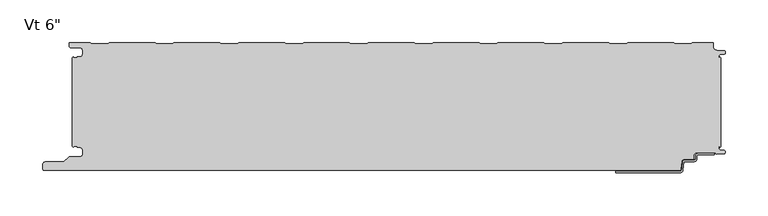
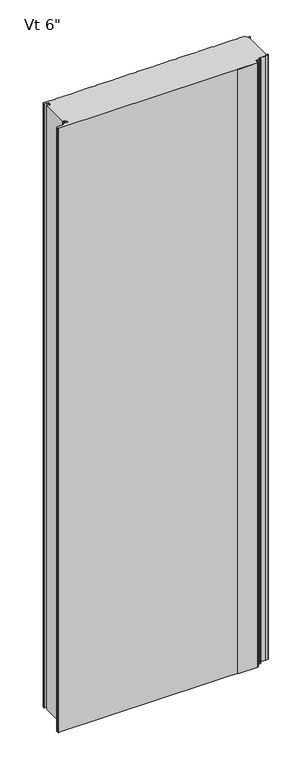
"""IFC4 building model written with IfcOpenShell, lengths in millimetres: plate geometry."""

from ifc_helpers import new_model, si_unit, frame, origin, place, context, project, spatial, polyline, circle_curve, source, transform, mapped, element, save
from ifc_brep_helpers import plane_surface, cylinder_surface, revolved_surface, advanced_brep


def plate_d215558d(model_context):
    return source(origin(), model_context, "Body", "AdvancedBrep", [
        advanced_brep(
        [(354.8464083, -131.3008679, 0.0), (373.5916083, -131.3008679, 0.0), (373.5916083, -132.8248679, 0.0), (354.8464083, -132.8248679, 0.0), (353.3224083, -134.3488679, 0.0), (353.3224083, -137.4476679, 0.0), (349.8680083, -140.9020679, 0.0), (338.655451, -140.9020679, 0.0), (337.8963506, -141.5976552, 0.0), (336.701523, -151.1416507, 0.0), (333.6651216, -153.924, 0.0), (258.0978083, -153.9360323, 0.0), (258.0978083, -152.4, 0.0), (333.6651216, -152.4, 0.0), (335.1833223, -151.0088254, 0.0), (336.3781499, -141.4648299, 0.0), (338.655451, -139.3780679, 0.0), (349.8680083, -139.3780679, 0.0), (351.7984083, -137.4476679, 0.0), (351.7984083, -134.3488679, 0.0), (354.8464083, -131.3008679, 2400.0), (351.7984083, -134.3488679, 2400.0), (351.7984083, -137.4476679, 2400.0), (349.8680083, -139.3780679, 2400.0), (338.655451, -139.3780679, 2400.0), (336.3781499, -141.4648299, 2400.0), (335.1833223, -151.0088254, 2400.0), (333.6651216, -152.4, 2400.0), (258.0978083, -152.4, 2400.0), (258.0978083, -153.9360323, 2400.0), (333.6651216, -153.9360323, 2400.0), (336.701523, -151.1416507, 2400.0), (337.8963506, -141.5976552, 2400.0), (338.655451, -140.9020679, 2400.0), (349.8680083, -140.9020679, 2400.0), (353.3224083, -137.4476679, 2400.0), (353.3224083, -134.3488679, 2400.0), (354.8464083, -132.8248679, 2400.0), (373.5916083, -132.8248679, 2400.0), (373.5916083, -131.3008679, 2400.0)],
        [
            (0, 1),
            (1, 2),
            (2, 3),
            (3, 4, circle_curve(frame((354.8464083, -134.3488679, 0.0), z_axis=(0.0, 0.0, 1.0), x_axis=(0.0, 1.0, 0.0)), 1.524)),
            (4, 5),
            (5, 6, circle_curve(frame((349.8680083, -137.4476679, 0.0), z_axis=(0.0, 0.0, -1.0), x_axis=(0.0, 1.0, 0.0)), 3.4544)),
            (6, 7),
            (7, 8, circle_curve(frame((338.655451, -141.6640679, 0.0), z_axis=(0.0, 0.0, 1.0), x_axis=(0.0, 1.0, 0.0)), 0.762)),
            (8, 9),
            (9, 10, circle_curve(frame((333.6651216, -150.876, 0.0), z_axis=(0.0, 0.0, -1.0), x_axis=(0.0, 1.0, 0.0)), 3.048)),
            (10, 11),
            (11, 12),
            (12, 13),
            (13, 14, circle_curve(frame((333.6651216, -150.876, 0.0), z_axis=(0.0, 0.0, 1.0), x_axis=(0.0, 1.0, 0.0)), 1.524)),
            (14, 15),
            (15, 16, circle_curve(frame((338.655451, -141.6640679, 0.0), z_axis=(0.0, 0.0, -1.0), x_axis=(0.0, 1.0, 0.0)), 2.286)),
            (16, 17),
            (17, 18, circle_curve(frame((349.8680083, -137.4476679, 0.0), z_axis=(0.0, 0.0, 1.0), x_axis=(0.0, 1.0, 0.0)), 1.9304)),
            (18, 19),
            (19, 0, circle_curve(frame((354.8464083, -134.3488679, 0.0), z_axis=(0.0, 0.0, -1.0), x_axis=(0.0, 1.0, 0.0)), 3.048)),
            (20, 21, circle_curve(frame((354.8464083, -134.3488679, 2400.0), z_axis=(0.0, 0.0, 1.0), x_axis=(0.0, 1.0, 0.0)), 3.048)),
            (21, 22),
            (22, 23, circle_curve(frame((349.8680083, -137.4476679, 2400.0), z_axis=(0.0, 0.0, -1.0), x_axis=(0.0, 1.0, 0.0)), 1.9304)),
            (23, 24),
            (24, 25, circle_curve(frame((338.655451, -141.6640679, 2400.0), z_axis=(0.0, 0.0, 1.0), x_axis=(0.0, 1.0, 0.0)), 2.286)),
            (25, 26),
            (26, 27, circle_curve(frame((333.6651216, -150.876, 2400.0), z_axis=(0.0, 0.0, -1.0), x_axis=(0.0, 1.0, 0.0)), 1.524)),
            (27, 28),
            (28, 29),
            (29, 30),
            (30, 31, circle_curve(frame((333.6651216, -150.876, 2400.0), z_axis=(0.0, 0.0, 1.0), x_axis=(0.0, 1.0, 0.0)), 3.048)),
            (31, 32),
            (32, 33, circle_curve(frame((338.655451, -141.6640679, 2400.0), z_axis=(0.0, 0.0, -1.0), x_axis=(0.0, 1.0, 0.0)), 0.762)),
            (33, 34),
            (34, 35, circle_curve(frame((349.8680083, -137.4476679, 2400.0), z_axis=(0.0, 0.0, 1.0), x_axis=(0.0, 1.0, 0.0)), 3.4544)),
            (35, 36),
            (36, 37, circle_curve(frame((354.8464083, -134.3488679, 2400.0), z_axis=(0.0, 0.0, -1.0), x_axis=(0.0, 1.0, 0.0)), 1.524)),
            (37, 38),
            (38, 39),
            (39, 20),
            (2, 38),
            (37, 3),
            (15, 25),
            (24, 16),
            (7, 33),
            (32, 8),
            (5, 35),
            (34, 6),
            (1, 39),
            (36, 4),
            (9, 31),
            (30, 10),
            (13, 27),
            (26, 14),
            (0, 20),
            (12, 28),
            (29, 11),
            (23, 17),
            (18, 22),
            (21, 19),
        ],
        [
            plane_surface(frame((373.5916083, -152.4, 0.0), z_axis=(0.0, 0.0, -1.0), x_axis=(-1.0, 0.0, 0.0))),
            plane_surface(frame((373.5916083, -152.4, 2400.0), z_axis=(0.0, 0.0, 1.0), x_axis=(-1.0, 0.0, 0.0))),
            plane_surface(frame((354.8464083, -132.8248679, 0.0), z_axis=(0.0, -1.0, 0.0), x_axis=(0.0, 0.0, 1.0))),
            cylinder_surface(frame((338.655451, -141.6640679, 0.0), z_axis=(0.0, 0.0, -1.0), x_axis=(0.0, 1.0, 0.0)), 2.286),
            revolved_surface(polyline([(338.655451, -140.9020679, 2400.0), (338.655451, -140.9020679, 0.0)]), (338.655451, -141.6640679, 0.0), (0.0, 0.0, 1.0)),
            cylinder_surface(frame((349.8680083, -137.4476679, 0.0), z_axis=(0.0, 0.0, -1.0), x_axis=(0.0, 1.0, 0.0)), 3.4544),
            plane_surface(frame((373.5916083, -132.8248679, 0.0), z_axis=(1.0, 0.0, 0.0), x_axis=(0.0, 0.0, 1.0))),
            revolved_surface(polyline([(354.8464083, -132.8248679, 2400.0), (354.8464083, -132.8248679, 0.0)]), (354.8464083, -134.3488679, 0.0), (0.0, 0.0, 1.0)),
            cylinder_surface(frame((333.6651216, -150.876, 0.0), z_axis=(0.0, 0.0, -1.0), x_axis=(0.0, 1.0, 0.0)), 3.048),
            revolved_surface(polyline([(333.6651216, -149.352, 2400.0), (333.6651216, -149.352, 0.0)]), (333.6651216, -150.876, 0.0), (0.0, 0.0, 1.0)),
            plane_surface(frame((373.5916083, -131.3008679, 0.0), z_axis=(0.0, 1.0, 0.0), x_axis=(0.0, 0.0, 1.0))),
            plane_surface(frame((336.3781499, -141.4648299, 0.0), z_axis=(-0.9922544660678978, 0.12422187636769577, 0.0), x_axis=(0.0, 0.0, 1.0))),
            plane_surface(frame((333.6651216, -152.4, 0.0), z_axis=(0.0, 1.0, 0.0), x_axis=(0.0, 0.0, 1.0))),
            plane_surface(frame((336.701523, -151.1416507, 0.0), z_axis=(0.9922544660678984, -0.12422187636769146, 0.0), x_axis=(0.0, 0.0, 1.0))),
            plane_surface(frame((353.3224083, -137.4476679, 0.0), z_axis=(1.0, 0.0, 0.0), x_axis=(0.0, 0.0, 1.0))),
            plane_surface(frame((258.0978083, -153.9360323, 0.0), z_axis=(0.0, -1.0, 0.0), x_axis=(0.0, 0.0, 1.0))),
            plane_surface(frame((258.0978083, -152.4, 0.0), z_axis=(-1.0, 0.0, 0.0), x_axis=(0.0, 0.0, 1.0))),
            plane_surface(frame((349.8680083, -139.3780679, 0.0), z_axis=(0.0, 1.0, 0.0), x_axis=(0.0, 0.0, 1.0))),
            plane_surface(frame((351.7984083, -134.3488679, 0.0), z_axis=(-1.0, 0.0, 0.0), x_axis=(0.0, 0.0, 1.0))),
            plane_surface(frame((338.655451, -140.9020679, 0.0), z_axis=(0.0, -1.0, 0.0), x_axis=(0.0, 0.0, 1.0))),
            revolved_surface(polyline([(349.8680083, -135.5172679, 2400.0), (349.8680083, -135.5172679, 0.0)]), (349.8680083, -137.4476679, 0.0), (0.0, 0.0, 1.0)),
            cylinder_surface(frame((354.8464083, -134.3488679, 0.0), z_axis=(0.0, 0.0, -1.0), x_axis=(0.0, 1.0, 0.0)), 3.048),
        ],
        [
            (0, [[1, 2, 3, 4, 5, 6, 7, 8, 9, 10, 11, 12, 13, 14, 15, 16, 17, 18, 19, 20]]),
            (1, [[21, 22, 23, 24, 25, 26, 27, 28, 29, 30, 31, 32, 33, 34, 35, 36, 37, 38, 39, 40]]),
            (2, [[41, -38, 42, -3]]),
            (3, [[43, -25, 44, -16]]),
            (4, [[45, -33, 46, -8]]),
            (5, [[47, -35, 48, -6]]),
            (6, [[49, -39, -41, -2]]),
            (7, [[-42, -37, 50, -4]]),
            (8, [[51, -31, 52, -10]]),
            (9, [[53, -27, 54, -14]]),
            (10, [[55, -40, -49, -1]]),
            (11, [[-54, -26, -43, -15]]),
            (12, [[56, -28, -53, -13]]),
            (13, [[-46, -32, -51, -9]]),
            (14, [[-50, -36, -47, -5]]),
            (15, [[-52, -30, 57, -11]]),
            (16, [[-57, -29, -56, -12]]),
            (17, [[-44, -24, 58, -17]]),
            (18, [[59, -22, 60, -19]]),
            (19, [[-48, -34, -45, -7]]),
            (20, [[-58, -23, -59, -18]]),
            (21, [[-60, -21, -55, -20]]),
        ],
    ),
        advanced_brep(
        [(-379.9683001, -124.0708722, 2400.0), (-378.7671761, -122.9013975, 2400.0), (-375.0087827, -122.9013975, 2400.0), (-375.0087827, -124.2998764, 2400.0), (-372.3096717, -124.2998764, 2400.0), (-368.9596764, -127.6498717, 2400.0), (-368.9596764, -132.0498629, 2400.0), (-372.3096717, -135.3998582, 2400.0), (-384.1205608, -135.3998582, 2400.0), (-385.3226385, -135.8977751, 2400.0), (-390.8247096, -141.3998462, 2400.0), (-412.9198392, -141.3998462, 2400.0), (-415.5765709, -143.6184482, 2400.0), (-416.0125699, -148.6002691, 2400.0), (-413.4521176, -151.394594, 2400.0), (332.515622, -151.3999973, 2400.0), (334.4669057, -149.6149232, 2400.0), (335.221161, -141.1539464, 2400.0), (338.3653654, -138.3906435, 2400.0), (348.4583308, -138.3906435, 2400.0), (349.4097394, -137.4392348, 2400.0), (349.4097394, -134.2955794, 2400.0), (353.4091924, -130.2961265, 2400.0), (374.5895515, -130.2961265, 2400.0), (375.7334028, -132.2769743, 2400.0), (384.706811, -131.921714, 2400.0), (384.7037148, -127.7211364, 2400.0), (380.6977997, -127.4767215, 2400.0), (378.9686884, -125.6819089, 2400.0), (378.9686884, -122.8973623, 2400.0), (379.9686884, -122.8973623, 2400.0), (379.9686884, -124.4848623, 2400.0), (381.0, -123.4535507, 2400.0), (381.0, -18.6184498, 2400.0), (379.9686884, -17.5871382, 2400.0), (379.9686884, -19.0015261, 2400.0), (378.9686884, -19.0015261, 2400.0), (378.9686884, -16.6743434, 2400.0), (380.6513685, -14.9256402, 2400.0), (384.7921924, -14.7059795, 2400.0), (384.7931719, -10.4046415, 2400.0), (376.3016499, -9.9974338, 2400.0), (372.4787013, -6.002598, 2400.0), (372.4787013, -0.9999973, 2400.0), (347.9790963, -0.9999973, 2400.0), (346.5934634, -2.200228, 2400.0), (327.2182971, -2.200228, 2400.0), (325.8326641, -0.9999973, 2400.0), (271.7792487, -0.9999973, 2400.0), (270.3936158, -2.200228, 2400.0), (251.0184495, -2.200228, 2400.0), (249.6328165, -0.9999973, 2400.0), (195.5794011, -0.9999973, 2400.0), (194.1937682, -2.200228, 2400.0), (174.8186019, -2.200228, 2400.0), (173.4329689, -0.9999973, 2400.0), (119.3795535, -0.9999973, 2400.0), (117.9939206, -2.200228, 2400.0), (98.6187543, -2.200228, 2400.0), (97.2331213, -0.9999973, 2400.0), (43.1797059, -0.9999973, 2400.0), (41.794073, -2.200228, 2400.0), (22.4189067, -2.200228, 2400.0), (21.0332737, -0.9999973, 2400.0), (-33.0201417, -0.9999973, 2400.0), (-34.4057746, -2.200228, 2400.0), (-53.7809409, -2.200228, 2400.0), (-55.1665739, -0.9999973, 2400.0), (-109.2199893, -0.9999973, 2400.0), (-110.6056222, -2.200228, 2400.0), (-129.9807885, -2.200228, 2400.0), (-131.3664215, -0.9999973, 2400.0), (-185.4198369, -0.9999973, 2400.0), (-186.8054698, -2.200228, 2400.0), (-206.1806361, -2.200228, 2400.0), (-207.5662691, -0.9999973, 2400.0), (-261.6196845, -0.9999973, 2400.0), (-263.0053174, -2.200228, 2400.0), (-282.3804837, -2.200228, 2400.0), (-283.7661167, -0.9999973, 2400.0), (-337.8195321, -0.9999973, 2400.0), (-339.205165, -2.200228, 2400.0), (-358.5803313, -2.200228, 2400.0), (-359.965974, -0.9999889, 2400.0), (-384.4662506, -0.9999889, 2400.0), (-384.4662506, -5.2315362, 2400.0), (-382.6962564, -7.0015304, 2400.0), (-372.2762778, -7.0015304, 2400.0), (-368.976282, -10.3015263, 2400.0), (-368.976282, -14.7015175, 2400.0), (-372.2762777, -18.0015132, 2400.0), (-374.9684875, -18.0015132, 2400.0), (-374.9684875, -19.0015077, 2400.0), (-378.9686911, -19.0015077, 2400.0), (-379.9686883, -18.0015165, 2400.0), (-381.0, -19.0328281, 2400.0), (-381.0, -123.0391724, 2400.0), (-379.9683001, -124.0708722, 0.0), (-381.0, -123.0391724, 0.0), (-381.0, -19.0328281, 0.0), (-379.9686883, -18.0015165, 0.0), (-378.9686911, -19.0015077, 0.0), (-374.9684875, -19.0015077, 0.0), (-374.9684875, -18.0015132, 0.0), (-372.2762777, -18.0015132, 0.0), (-368.976282, -14.7015175, 0.0), (-368.976282, -10.3015263, 0.0), (-372.2762778, -7.0015304, 0.0), (-382.6962564, -7.0015304, 0.0), (-384.4662506, -5.2315362, 0.0), (-384.4662506, -0.9999889, 0.0), (-359.965974, -0.9999889, 0.0), (-358.5803313, -2.200228, 0.0), (-339.205165, -2.200228, 0.0), (-337.8195321, -0.9999973, 0.0), (-283.7661167, -0.9999973, 0.0), (-282.3804837, -2.200228, 0.0), (-263.0053174, -2.200228, 0.0), (-261.6196845, -0.9999973, 0.0), (-207.5662691, -0.9999973, 0.0), (-206.1806361, -2.200228, 0.0), (-186.8054698, -2.200228, 0.0), (-185.4198369, -0.9999973, 0.0), (-131.3664215, -0.9999973, 0.0), (-129.9807885, -2.200228, 0.0), (-110.6056222, -2.200228, 0.0), (-109.2199893, -0.9999973, 0.0), (-55.1665739, -0.9999973, 0.0), (-53.7809409, -2.200228, 0.0), (-34.4057746, -2.200228, 0.0), (-33.0201417, -0.9999973, 0.0), (21.0332737, -0.9999973, 0.0), (22.4189067, -2.200228, 0.0), (41.794073, -2.200228, 0.0), (43.1797059, -0.9999973, 0.0), (97.2331213, -0.9999973, 0.0), (98.6187543, -2.200228, 0.0), (117.9939206, -2.200228, 0.0), (119.3795535, -0.9999973, 0.0), (173.4329689, -0.9999973, 0.0), (174.8186019, -2.200228, 0.0), (194.1937682, -2.200228, 0.0), (195.5794011, -0.9999973, 0.0), (249.6328165, -0.9999973, 0.0), (251.0184495, -2.200228, 0.0), (270.3936158, -2.200228, 0.0), (271.7792487, -0.9999973, 0.0), (325.8326641, -0.9999973, 0.0), (327.2182971, -2.200228, 0.0), (346.5934634, -2.200228, 0.0), (347.9790963, -0.9999973, 0.0), (372.4787013, -0.9999973, 0.0), (372.4787013, -6.002598, 0.0), (376.3016499, -9.9974338, 0.0), (384.7931719, -10.4046415, 0.0), (384.7921924, -14.7059795, 0.0), (380.6513685, -14.9256402, 0.0), (378.9686884, -16.6743434, 0.0), (378.9686884, -19.0015261, 0.0), (379.9686884, -19.0015261, 0.0), (379.9686884, -17.5871382, 0.0), (381.0, -18.6184498, 0.0), (381.0, -123.4535507, 0.0), (379.9686884, -124.4848623, 0.0), (379.9686884, -122.8973623, 0.0), (378.9686884, -122.8973623, 0.0), (378.9686884, -125.6819089, 0.0), (380.6977997, -127.4767215, 0.0), (384.7037148, -127.7211364, 0.0), (384.706811, -131.921714, 0.0), (375.7334028, -132.2769743, 0.0), (374.5895515, -130.2961265, 0.0), (353.4091924, -130.2961265, 0.0), (349.4097394, -134.2955794, 0.0), (349.4097394, -137.4392348, 0.0), (348.4583308, -138.3906435, 0.0), (338.3653654, -138.3906435, 0.0), (335.221161, -141.1539464, 0.0), (334.4669057, -149.6149232, 0.0), (332.515622, -151.3999973, 0.0), (-413.4521176, -151.3999973, 0.0), (-416.0125699, -148.6002691, 0.0), (-415.5765709, -143.6184482, 0.0), (-412.9198392, -141.3998462, 0.0), (-390.8247096, -141.3998462, 0.0), (-385.3226385, -135.8977751, 0.0), (-384.1205608, -135.3998582, 0.0), (-372.3096717, -135.3998582, 0.0), (-368.9596764, -132.0498629, 0.0), (-368.9596764, -127.6498717, 0.0), (-372.3096717, -124.2998764, 0.0), (-375.0087827, -124.2998764, 0.0), (-375.0087827, -122.9013975, 0.0), (-378.7671761, -122.9013975, 0.0)],
        [
            (0, 1, circle_curve(frame((-378.7686908, -124.1013942, 2400.0), z_axis=(0.0, 0.0, -1.0), x_axis=(-1.0, 0.0, 0.0)), 1.1999976)),
            (1, 2),
            (2, 3),
            (3, 4),
            (4, 5, circle_curve(frame((-372.3096717, -127.6498717, 2400.0), z_axis=(0.0, 0.0, -1.0), x_axis=(-1.0, 0.0, 0.0)), 3.3499953)),
            (5, 6),
            (6, 7, circle_curve(frame((-372.3096717, -132.0498629, 2400.0), z_axis=(0.0, 0.0, -1.0), x_axis=(-1.0, 0.0, 0.0)), 3.3499953)),
            (7, 8),
            (8, 9, circle_curve(frame((-384.1205608, -137.0998528, 2400.0), z_axis=(0.0, 0.0, 1.0), x_axis=(-1.0, 0.0, 0.0)), 1.6999946)),
            (9, 10),
            (10, 11),
            (11, 12, circle_curve(frame((-412.9198392, -144.0998388, 2400.0), z_axis=(0.0, 0.0, 1.0), x_axis=(-1.0, 0.0, 0.0)), 2.6999926)),
            (12, 13),
            (13, 14, circle_curve(frame((-413.4521176, -148.8243547, 2400.0), z_axis=(0.0, 0.0, 1.0), x_axis=(-1.0, 0.0, 0.0)), 2.5702393)),
            (14, 15),
            (15, 16, circle_curve(frame((332.515622, -149.4409756, 2400.0), z_axis=(0.0, 0.0, 1.0), x_axis=(-1.0, 0.0, 0.0)), 1.9590216)),
            (16, 17),
            (17, 18, circle_curve(frame((338.2396267, -141.4180294, 2400.0), z_axis=(0.0, 0.0, -1.0), x_axis=(-1.0, 0.0, 0.0)), 3.0299959)),
            (18, 19),
            (19, 20, circle_curve(frame((348.4583308, -137.4392348, 2400.0), z_axis=(0.0, 0.0, 1.0), x_axis=(-1.0, 0.0, 0.0)), 0.9514087)),
            (20, 21),
            (21, 22, circle_curve(frame((353.4091924, -134.2955794, 2400.0), z_axis=(0.0, 0.0, -1.0), x_axis=(-1.0, 0.0, 0.0)), 3.9994529)),
            (22, 23),
            (23, 24),
            (24, 25),
            (25, 26, circle_curve(frame((384.6236622, -129.8214853, 2400.0), z_axis=(0.0, 0.0, 1.0), x_axis=(-1.0, 0.0, 0.0)), 2.1018739)),
            (26, 27),
            (27, 28, circle_curve(frame((380.8099653, -125.6383479, 2400.0), z_axis=(0.0, 0.0, -1.0), x_axis=(-1.0, 0.0, 0.0)), 1.8417922)),
            (28, 29),
            (29, 30),
            (30, 31),
            (31, 32),
            (32, 33),
            (33, 34),
            (34, 35),
            (35, 36),
            (36, 37),
            (37, 38, circle_curve(frame((380.7186869, -16.6743434, 2400.0), z_axis=(0.0, 0.0, -1.0), x_axis=(1.0, 0.0, 0.0)), 1.7499985)),
            (38, 39),
            (39, 40, circle_curve(frame((384.6781032, -12.5552844, 2400.0), z_axis=(0.0, 0.0, 1.0), x_axis=(1.0, 0.0, 0.0)), 2.153719)),
            (40, 41),
            (41, 42, circle_curve(frame((376.4939817, -5.9867311, 2400.0), z_axis=(0.0, 0.0, -1.0), x_axis=(1.0, 0.0, 0.0)), 4.0153117)),
            (42, 43),
            (43, 44),
            (44, 45),
            (45, 46),
            (46, 47),
            (47, 48),
            (48, 49),
            (49, 50),
            (50, 51),
            (51, 52),
            (52, 53),
            (53, 54),
            (54, 55),
            (55, 56),
            (56, 57),
            (57, 58),
            (58, 59),
            (59, 60),
            (60, 61),
            (61, 62),
            (62, 63),
            (63, 64),
            (64, 65),
            (65, 66),
            (66, 67),
            (67, 68),
            (68, 69),
            (69, 70),
            (70, 71),
            (71, 72),
            (72, 73),
            (73, 74),
            (74, 75),
            (75, 76),
            (76, 77),
            (77, 78),
            (78, 79),
            (79, 80),
            (80, 81),
            (81, 82),
            (82, 83),
            (83, 84),
            (84, 85),
            (85, 86, circle_curve(frame((-382.6962564, -5.2315362, 2400.0), z_axis=(0.0, 0.0, 1.0), x_axis=(1.0, 0.0, 0.0)), 1.7699942)),
            (86, 87),
            (87, 88, circle_curve(frame((-372.2762778, -10.3015263, 2400.0), z_axis=(0.0, 0.0, -1.0), x_axis=(1.0, 0.0, 0.0)), 3.2999959)),
            (88, 89),
            (89, 90, circle_curve(frame((-372.2762777, -14.7015175, 2400.0), z_axis=(0.0, 0.0, -1.0), x_axis=(1.0, 0.0, 0.0)), 3.2999957)),
            (90, 91),
            (91, 92),
            (92, 93),
            (93, 94, circle_curve(frame((-378.9686911, -18.0015105, 2400.0), z_axis=(0.0, 0.0, -1.0), x_axis=(1.0, 0.0, 0.0)), 0.9999972)),
            (94, 95),
            (95, 96),
            (96, 0),
            (97, 98),
            (98, 99),
            (99, 100),
            (100, 101, circle_curve(frame((-378.9686911, -18.0015105, 0.0), z_axis=(0.0, 0.0, 1.0), x_axis=(1.0, 0.0, 0.0)), 0.9999972)),
            (101, 102),
            (102, 103),
            (103, 104),
            (104, 105, circle_curve(frame((-372.2762777, -14.7015175, 0.0), z_axis=(0.0, 0.0, 1.0), x_axis=(1.0, 0.0, 0.0)), 3.2999957)),
            (105, 106),
            (106, 107, circle_curve(frame((-372.2762778, -10.3015263, 0.0), z_axis=(0.0, 0.0, 1.0), x_axis=(1.0, 0.0, 0.0)), 3.2999959)),
            (107, 108),
            (108, 109, circle_curve(frame((-382.6962564, -5.2315362, 0.0), z_axis=(0.0, 0.0, -1.0), x_axis=(1.0, 0.0, 0.0)), 1.7699942)),
            (109, 110),
            (110, 111),
            (111, 112),
            (112, 113),
            (113, 114),
            (114, 115),
            (115, 116),
            (116, 117),
            (117, 118),
            (118, 119),
            (119, 120),
            (120, 121),
            (121, 122),
            (122, 123),
            (123, 124),
            (124, 125),
            (125, 126),
            (126, 127),
            (127, 128),
            (128, 129),
            (129, 130),
            (130, 131),
            (131, 132),
            (132, 133),
            (133, 134),
            (134, 135),
            (135, 136),
            (136, 137),
            (137, 138),
            (138, 139),
            (139, 140),
            (140, 141),
            (141, 142),
            (142, 143),
            (143, 144),
            (144, 145),
            (145, 146),
            (146, 147),
            (147, 148),
            (148, 149),
            (149, 150),
            (150, 151),
            (151, 152),
            (152, 153, circle_curve(frame((376.4939817, -5.9867311, 0.0), z_axis=(0.0, 0.0, 1.0), x_axis=(1.0, 0.0, 0.0)), 4.0153117)),
            (153, 154),
            (154, 155, circle_curve(frame((384.6781032, -12.5552844, 0.0), z_axis=(0.0, 0.0, -1.0), x_axis=(1.0, 0.0, 0.0)), 2.153719)),
            (155, 156),
            (156, 157, circle_curve(frame((380.7186869, -16.6743434, 0.0), z_axis=(0.0, 0.0, 1.0), x_axis=(1.0, 0.0, 0.0)), 1.7499985)),
            (157, 158),
            (158, 159),
            (159, 160),
            (160, 161),
            (161, 162),
            (162, 163),
            (163, 164),
            (164, 165),
            (165, 166),
            (166, 167, circle_curve(frame((380.8099653, -125.6383479, 0.0), z_axis=(0.0, 0.0, 1.0), x_axis=(-1.0, 0.0, 0.0)), 1.8417922)),
            (167, 168),
            (168, 169, circle_curve(frame((384.6236622, -129.8214853, 0.0), z_axis=(0.0, 0.0, -1.0), x_axis=(-1.0, 0.0, 0.0)), 2.1018739)),
            (169, 170),
            (170, 171),
            (171, 172),
            (172, 173, circle_curve(frame((353.4091924, -134.2955794, 0.0), z_axis=(0.0, 0.0, 1.0), x_axis=(-1.0, 0.0, 0.0)), 3.9994529)),
            (173, 174),
            (174, 175, circle_curve(frame((348.4583308, -137.4392348, 0.0), z_axis=(0.0, 0.0, -1.0), x_axis=(-1.0, 0.0, 0.0)), 0.9514087)),
            (175, 176),
            (176, 177, circle_curve(frame((338.2396267, -141.4180294, 0.0), z_axis=(0.0, 0.0, 1.0), x_axis=(-1.0, 0.0, 0.0)), 3.0299959)),
            (177, 178),
            (178, 179, circle_curve(frame((332.515622, -149.4409756, 0.0), z_axis=(0.0, 0.0, -1.0), x_axis=(-1.0, 0.0, 0.0)), 1.9590216)),
            (179, 180),
            (180, 181, circle_curve(frame((-413.4521176, -148.8243547, 0.0), z_axis=(0.0, 0.0, -1.0), x_axis=(-1.0, 0.0, 0.0)), 2.5702393)),
            (181, 182),
            (182, 183, circle_curve(frame((-412.9198392, -144.0998388, 0.0), z_axis=(0.0, 0.0, -1.0), x_axis=(-1.0, 0.0, 0.0)), 2.6999926)),
            (183, 184),
            (184, 185),
            (185, 186, circle_curve(frame((-384.1205608, -137.0998528, 0.0), z_axis=(0.0, 0.0, -1.0), x_axis=(-1.0, 0.0, 0.0)), 1.6999946)),
            (186, 187),
            (187, 188, circle_curve(frame((-372.3096717, -132.0498629, 0.0), z_axis=(0.0, 0.0, 1.0), x_axis=(-1.0, 0.0, 0.0)), 3.3499953)),
            (188, 189),
            (189, 190, circle_curve(frame((-372.3096717, -127.6498717, 0.0), z_axis=(0.0, 0.0, 1.0), x_axis=(-1.0, 0.0, 0.0)), 3.3499953)),
            (190, 191),
            (191, 192),
            (192, 193),
            (193, 97, circle_curve(frame((-378.7686908, -124.1013942, 0.0), z_axis=(0.0, 0.0, 1.0), x_axis=(-1.0, 0.0, 0.0)), 1.1999976)),
            (96, 98),
            (97, 0),
            (95, 99),
            (32, 162),
            (161, 33),
            (31, 163),
            (30, 164),
            (29, 165),
            (28, 166),
            (27, 167),
            (26, 168),
            (25, 169),
            (24, 170),
            (23, 171),
            (22, 172),
            (21, 173),
            (20, 174),
            (19, 175),
            (18, 176),
            (17, 177),
            (16, 178),
            (15, 179),
            (14, 180),
            (13, 181),
            (12, 182),
            (11, 183),
            (10, 184),
            (9, 185),
            (8, 186),
            (7, 187),
            (6, 188),
            (5, 189),
            (4, 190),
            (3, 191),
            (2, 192),
            (1, 193),
            (94, 100),
            (93, 101),
            (92, 102),
            (91, 103),
            (90, 104),
            (89, 105),
            (88, 106),
            (87, 107),
            (86, 108),
            (85, 109),
            (84, 110),
            (83, 111),
            (82, 112),
            (81, 113),
            (80, 114),
            (79, 115),
            (78, 116),
            (77, 117),
            (76, 118),
            (75, 119),
            (74, 120),
            (73, 121),
            (72, 122),
            (71, 123),
            (70, 124),
            (69, 125),
            (68, 126),
            (67, 127),
            (66, 128),
            (65, 129),
            (64, 130),
            (63, 131),
            (62, 132),
            (61, 133),
            (60, 134),
            (59, 135),
            (58, 136),
            (57, 137),
            (56, 138),
            (55, 139),
            (54, 140),
            (53, 141),
            (52, 142),
            (51, 143),
            (50, 144),
            (49, 145),
            (48, 146),
            (47, 147),
            (46, 148),
            (45, 149),
            (44, 150),
            (43, 151),
            (42, 152),
            (41, 153),
            (40, 154),
            (39, 155),
            (38, 156),
            (37, 157),
            (36, 158),
            (35, 159),
            (34, 160),
        ],
        [
            plane_surface(frame((0.0, -151.3999973, 2400.0), z_axis=(0.0, 0.0, 1.0), x_axis=(0.0, -1.0, 0.0))),
            plane_surface(frame((0.0, -151.3999973, 0.0), z_axis=(0.0, 0.0, -1.0), x_axis=(0.0, -1.0, 0.0))),
            plane_surface(frame((-379.9683001, -124.0708722, 2400.0), z_axis=(-0.707106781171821, -0.707106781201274, 0.0), x_axis=(0.0, 0.0, -1.0))),
            plane_surface(frame((-381.0, -123.0391724, 2400.0), z_axis=(-1.0, 0.0, 0.0), x_axis=(0.0, 0.0, -1.0))),
            plane_surface(frame((381.0, -122.0391724, 2400.0), z_axis=(1.0, 0.0, 0.0), x_axis=(0.0, 0.0, -1.0))),
            plane_surface(frame((381.0, -123.4535507, 2400.0), z_axis=(0.7071067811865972, -0.7071067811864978, 0.0), x_axis=(0.0, 0.0, -1.0))),
            plane_surface(frame((379.9686884, -124.4848623, 2400.0), z_axis=(-1.0, 0.0, 0.0), x_axis=(0.0, 0.0, -1.0))),
            plane_surface(frame((379.9686884, -122.8973623, 2400.0), z_axis=(0.0, -1.0, 0.0), x_axis=(0.0, 0.0, -1.0))),
            plane_surface(frame((378.9686884, -122.8973623, 2400.0), z_axis=(1.0, 0.0, 0.0), x_axis=(0.0, 0.0, -1.0))),
            revolved_surface(polyline([(378.9681731, -125.6383479, 0.0), (378.9681731, -125.6383479, 2400.0)]), (380.8099653, -125.6383479, 2400.0), (0.0, 0.0, -1.0)),
            plane_surface(frame((380.6977997, -127.4767215, 2400.0), z_axis=(0.06090025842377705, 0.9981438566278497, 0.0), x_axis=(0.0, 0.0, -1.0))),
            cylinder_surface(frame((384.6236622, -129.8214853, 2400.0), z_axis=(0.0, 0.0, 1.0), x_axis=(-1.0, 0.0, 0.0)), 2.1018739),
            plane_surface(frame((384.706811, -131.921714, 2400.0), z_axis=(0.039559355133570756, -0.9992172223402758, 0.0), x_axis=(0.0, 0.0, -1.0))),
            plane_surface(frame((375.7334028, -132.2769743, 2400.0), z_axis=(-0.8659859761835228, -0.5000682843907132, 0.0), x_axis=(0.0, 0.0, -1.0))),
            plane_surface(frame((374.5895515, -130.2961265, 2400.0), z_axis=(0.0, -1.0, 0.0), x_axis=(0.0, 0.0, -1.0))),
            revolved_surface(polyline([(349.4097395, -134.2955794, 0.0), (349.4097395, -134.2955794, 2400.0)]), (353.4091924, -134.2955794, 2400.0), (0.0, 0.0, -1.0)),
            plane_surface(frame((349.4097394, -134.2955794, 2400.0), z_axis=(1.0, 0.0, 0.0), x_axis=(0.0, 0.0, -1.0))),
            cylinder_surface(frame((348.4583308, -137.4392348, 2400.0), z_axis=(0.0, 0.0, 1.0), x_axis=(-1.0, 0.0, 0.0)), 0.9514087),
            plane_surface(frame((348.4583308, -138.3906435, 2400.0), z_axis=(0.0, -1.0, 0.0), x_axis=(0.0, 0.0, -1.0))),
            revolved_surface(polyline([(335.20963079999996, -141.4180294, 0.0), (335.20963079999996, -141.4180294, 2400.0)]), (338.2396267, -141.4180294, 2400.0), (0.0, 0.0, -1.0)),
            plane_surface(frame((335.221161, -141.1539464, 2400.0), z_axis=(0.9960500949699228, -0.08879306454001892, 0.0), x_axis=(0.0, 0.0, -1.0))),
            cylinder_surface(frame((332.515622, -149.4409756, 2400.0), z_axis=(0.0, 0.0, 1.0), x_axis=(-1.0, 0.0, 0.0)), 1.9590216),
            plane_surface(frame((332.515622, -151.3999973, 2400.0), z_axis=(0.0, -1.0, 0.0), x_axis=(0.0, 0.0, -1.0))),
            cylinder_surface(frame((-413.4521176, -148.8243547, 2400.0), z_axis=(0.0, 0.0, 1.0), x_axis=(-1.0, 0.0, 0.0)), 2.5702393),
            plane_surface(frame((-416.0125699, -148.6002691, 2400.0), z_axis=(-0.9961921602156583, 0.08718474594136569, 0.0), x_axis=(0.0, 0.0, -1.0))),
            cylinder_surface(frame((-412.9198392, -144.0998388, 2400.0), z_axis=(0.0, 0.0, 1.0), x_axis=(-1.0, 0.0, 0.0)), 2.6999926),
            plane_surface(frame((-412.9198392, -141.3998462, 2400.0), z_axis=(0.0, 1.0, 0.0), x_axis=(0.0, 0.0, -1.0))),
            plane_surface(frame((-390.8247096, -141.3998462, 2400.0), z_axis=(-0.7071067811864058, 0.7071067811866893, 0.0), x_axis=(0.0, 0.0, -1.0))),
            cylinder_surface(frame((-384.1205608, -137.0998528, 2400.0), z_axis=(0.0, 0.0, 1.0), x_axis=(-1.0, 0.0, 0.0)), 1.6999946),
            plane_surface(frame((-384.1205608, -135.3998582, 2400.0), z_axis=(0.0, 1.0, 0.0), x_axis=(0.0, 0.0, -1.0))),
            revolved_surface(polyline([(-375.659667, -132.0498629, 0.0), (-375.659667, -132.0498629, 2400.0)]), (-372.3096717, -132.0498629, 2400.0), (0.0, 0.0, -1.0)),
            plane_surface(frame((-368.9596764, -132.0498629, 2400.0), z_axis=(-1.0, 0.0, 0.0), x_axis=(0.0, 0.0, -1.0))),
            revolved_surface(polyline([(-375.659667, -127.6498717, 0.0), (-375.659667, -127.6498717, 2400.0)]), (-372.3096717, -127.6498717, 2400.0), (0.0, 0.0, -1.0)),
            plane_surface(frame((-372.3096717, -124.2998764, 2400.0), z_axis=(0.0, -1.0, 0.0), x_axis=(0.0, 0.0, -1.0))),
            plane_surface(frame((-375.0087827, -124.2998764, 2400.0), z_axis=(-1.0, 0.0, 0.0), x_axis=(0.0, 0.0, -1.0))),
            plane_surface(frame((-375.0087827, -122.9013975, 2400.0), z_axis=(0.0, -1.0, 0.0), x_axis=(0.0, 0.0, -1.0))),
            revolved_surface(polyline([(-379.9686884, -124.1013942, 0.0), (-379.9686884, -124.1013942, 2400.0)]), (-378.7686908, -124.1013942, 2400.0), (0.0, 0.0, -1.0)),
            plane_surface(frame((-381.0, -19.0328281, 2400.0), z_axis=(-0.70710678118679, 0.707106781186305, 0.0), x_axis=(0.0, 0.0, -1.0))),
            revolved_surface(polyline([(-377.9686939, -18.0015105, 0.0), (-377.9686939, -18.0015105, 2400.0)]), (-378.9686911, -18.0015105, 2400.0), (0.0, 0.0, -1.0)),
            plane_surface(frame((-378.9686911, -19.0015077, 2400.0), z_axis=(0.0, 1.0, 0.0), x_axis=(0.0, 0.0, -1.0))),
            plane_surface(frame((-374.9684875, -19.0015077, 2400.0), z_axis=(-1.0, 0.0, 0.0), x_axis=(0.0, 0.0, -1.0))),
            plane_surface(frame((-374.9684875, -18.0015132, 2400.0), z_axis=(0.0, 1.0, 0.0), x_axis=(0.0, 0.0, -1.0))),
            revolved_surface(polyline([(-368.97628199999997, -14.7015175, 0.0), (-368.97628199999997, -14.7015175, 2400.0)]), (-372.2762777, -14.7015175, 2400.0), (0.0, 0.0, -1.0)),
            plane_surface(frame((-368.976282, -14.7015175, 2400.0), z_axis=(-1.0, 0.0, 0.0), x_axis=(0.0, 0.0, -1.0))),
            revolved_surface(polyline([(-368.9762819, -10.3015263, 0.0), (-368.9762819, -10.3015263, 2400.0)]), (-372.2762778, -10.3015263, 2400.0), (0.0, 0.0, -1.0)),
            plane_surface(frame((-372.2762778, -7.0015304, 2400.0), z_axis=(0.0, -1.0, 0.0), x_axis=(0.0, 0.0, -1.0))),
            cylinder_surface(frame((-382.6962564, -5.2315362, 2400.0), z_axis=(0.0, 0.0, 1.0), x_axis=(1.0, 0.0, 0.0)), 1.7699942),
            plane_surface(frame((-384.4662506, -5.2315362, 2400.0), z_axis=(-1.0, 0.0, 0.0), x_axis=(0.0, 0.0, -1.0))),
            plane_surface(frame((-384.4662506, -0.9999889, 2400.0), z_axis=(0.0, 1.0, 0.0), x_axis=(0.0, 0.0, -1.0))),
            plane_surface(frame((-359.965974, -0.9999889, 2400.0), z_axis=(0.6547276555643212, 0.7558648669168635, 0.0), x_axis=(0.0, 0.0, -1.0))),
            plane_surface(frame((-358.5803313, -2.200228, 2400.0), z_axis=(0.0, 1.0, 0.0), x_axis=(0.0, 0.0, -1.0))),
            plane_surface(frame((-339.205165, -2.200228, 2400.0), z_axis=(-0.6547276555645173, 0.7558648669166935, 0.0), x_axis=(0.0, 0.0, -1.0))),
            plane_surface(frame((-337.8195321, -0.9999973, 2400.0), z_axis=(0.0, 1.0, 0.0), x_axis=(0.0, 0.0, -1.0))),
            plane_surface(frame((-283.7661167, -0.9999973, 2400.0), z_axis=(0.65472765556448, 0.7558648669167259, 0.0), x_axis=(0.0, 0.0, -1.0))),
            plane_surface(frame((-282.3804837, -2.200228, 2400.0), z_axis=(0.0, 1.0, 0.0), x_axis=(0.0, 0.0, -1.0))),
            plane_surface(frame((-263.0053174, -2.200228, 2400.0), z_axis=(-0.6547276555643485, 0.7558648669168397, 0.0), x_axis=(0.0, 0.0, -1.0))),
            plane_surface(frame((-261.6196845, -0.9999973, 2400.0), z_axis=(0.0, 1.0, 0.0), x_axis=(0.0, 0.0, -1.0))),
            plane_surface(frame((-207.5662691, -0.9999973, 2400.0), z_axis=(0.6547276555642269, 0.7558648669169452, 0.0), x_axis=(0.0, 0.0, -1.0))),
            plane_surface(frame((-206.1806361, -2.200228, 2400.0), z_axis=(0.0, 1.0, 0.0), x_axis=(0.0, 0.0, -1.0))),
            plane_surface(frame((-186.8054698, -2.200228, 2400.0), z_axis=(-0.6547276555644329, 0.7558648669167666, 0.0), x_axis=(0.0, 0.0, -1.0))),
            plane_surface(frame((-185.4198369, -0.9999973, 2400.0), z_axis=(0.0, 1.0, 0.0), x_axis=(0.0, 0.0, -1.0))),
            plane_surface(frame((-131.3664215, -0.9999973, 2400.0), z_axis=(0.6547276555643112, 0.755864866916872, 0.0), x_axis=(0.0, 0.0, -1.0))),
            plane_surface(frame((-129.9807885, -2.200228, 2400.0), z_axis=(0.0, 1.0, 0.0), x_axis=(0.0, 0.0, -1.0))),
            plane_surface(frame((-110.6056222, -2.200228, 2400.0), z_axis=(-0.6547276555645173, 0.7558648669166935, 0.0), x_axis=(0.0, 0.0, -1.0))),
            plane_surface(frame((-109.2199893, -0.9999973, 2400.0), z_axis=(0.0, 1.0, 0.0), x_axis=(0.0, 0.0, -1.0))),
            plane_surface(frame((-55.1665739, -0.9999973, 2400.0), z_axis=(0.6547276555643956, 0.755864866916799, 0.0), x_axis=(0.0, 0.0, -1.0))),
            plane_surface(frame((-53.7809409, -2.200228, 2400.0), z_axis=(0.0, 1.0, 0.0), x_axis=(0.0, 0.0, -1.0))),
            plane_surface(frame((-34.4057746, -2.200228, 2400.0), z_axis=(-0.6547276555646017, 0.7558648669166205, 0.0), x_axis=(0.0, 0.0, -1.0))),
            plane_surface(frame((-33.0201417, -0.9999973, 2400.0), z_axis=(0.0, 1.0, 0.0), x_axis=(0.0, 0.0, -1.0))),
            plane_surface(frame((21.0332737, -0.9999973, 2400.0), z_axis=(0.65472765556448, 0.7558648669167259, 0.0), x_axis=(0.0, 0.0, -1.0))),
            plane_surface(frame((22.4189067, -2.200228, 2400.0), z_axis=(0.0, 1.0, 0.0), x_axis=(0.0, 0.0, -1.0))),
            plane_surface(frame((41.794073, -2.200228, 2400.0), z_axis=(-0.6547276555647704, 0.7558648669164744, 0.0), x_axis=(0.0, 0.0, -1.0))),
            plane_surface(frame((43.1797059, -0.9999973, 2400.0), z_axis=(0.0, 1.0, 0.0), x_axis=(0.0, 0.0, -1.0))),
            plane_surface(frame((97.2331213, -0.9999973, 2400.0), z_axis=(0.6547276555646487, 0.7558648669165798, 0.0), x_axis=(0.0, 0.0, -1.0))),
            plane_surface(frame((98.6187543, -2.200228, 2400.0), z_axis=(0.0, 1.0, 0.0), x_axis=(0.0, 0.0, -1.0))),
            plane_surface(frame((117.9939206, -2.200228, 2400.0), z_axis=(-0.6547276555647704, 0.7558648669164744, 0.0), x_axis=(0.0, 0.0, -1.0))),
            plane_surface(frame((119.3795535, -0.9999973, 2400.0), z_axis=(0.0, 1.0, 0.0), x_axis=(0.0, 0.0, -1.0))),
            plane_surface(frame((173.4329689, -0.9999973, 2400.0), z_axis=(0.6547276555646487, 0.7558648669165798, 0.0), x_axis=(0.0, 0.0, -1.0))),
            plane_surface(frame((174.8186019, -2.200228, 2400.0), z_axis=(0.0, 1.0, 0.0), x_axis=(0.0, 0.0, -1.0))),
            plane_surface(frame((194.1937682, -2.200228, 2400.0), z_axis=(-0.6547276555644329, 0.7558648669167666, 0.0), x_axis=(0.0, 0.0, -1.0))),
            plane_surface(frame((195.5794011, -0.9999973, 2400.0), z_axis=(0.0, 1.0, 0.0), x_axis=(0.0, 0.0, -1.0))),
            plane_surface(frame((249.6328165, -0.9999973, 2400.0), z_axis=(0.6547276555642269, 0.7558648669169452, 0.0), x_axis=(0.0, 0.0, -1.0))),
            plane_surface(frame((251.0184495, -2.200228, 2400.0), z_axis=(0.0, 1.0, 0.0), x_axis=(0.0, 0.0, -1.0))),
            plane_surface(frame((270.3936158, -2.200228, 2400.0), z_axis=(-0.6547276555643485, 0.7558648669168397, 0.0), x_axis=(0.0, 0.0, -1.0))),
            plane_surface(frame((271.7792487, -0.9999973, 2400.0), z_axis=(0.0, 1.0, 0.0), x_axis=(0.0, 0.0, -1.0))),
            plane_surface(frame((325.8326641, -0.9999973, 2400.0), z_axis=(0.6547276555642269, 0.7558648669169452, 0.0), x_axis=(0.0, 0.0, -1.0))),
            plane_surface(frame((327.2182971, -2.200228, 2400.0), z_axis=(0.0, 1.0, 0.0), x_axis=(0.0, 0.0, -1.0))),
            plane_surface(frame((346.5934634, -2.200228, 2400.0), z_axis=(-0.6547276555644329, 0.7558648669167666, 0.0), x_axis=(0.0, 0.0, -1.0))),
            plane_surface(frame((347.9790963, -0.9999973, 2400.0), z_axis=(0.0, 1.0, 0.0), x_axis=(0.0, 0.0, -1.0))),
            plane_surface(frame((372.4787013, -0.9999973, 2400.0), z_axis=(1.0, 0.0, 0.0), x_axis=(0.0, 0.0, -1.0))),
            revolved_surface(polyline([(380.5092934, -5.9867311, 0.0), (380.5092934, -5.9867311, 2400.0)]), (376.4939817, -5.9867311, 2400.0), (0.0, 0.0, -1.0)),
            plane_surface(frame((376.3016499, -9.9974338, 2400.0), z_axis=(0.04789957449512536, 0.9988521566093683, 0.0), x_axis=(0.0, 0.0, -1.0))),
            cylinder_surface(frame((384.6781032, -12.5552844, 2400.0), z_axis=(0.0, 0.0, 1.0), x_axis=(1.0, 0.0, 0.0)), 2.153719),
            plane_surface(frame((384.7921924, -14.7059795, 2400.0), z_axis=(0.05297310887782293, -0.9985959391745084, 0.0), x_axis=(0.0, 0.0, -1.0))),
            revolved_surface(polyline([(382.4686854, -16.6743434, 0.0), (382.4686854, -16.6743434, 2400.0)]), (380.7186869, -16.6743434, 2400.0), (0.0, 0.0, -1.0)),
            plane_surface(frame((378.9686884, -16.6743434, 2400.0), z_axis=(1.0, 0.0, 0.0), x_axis=(0.0, 0.0, -1.0))),
            plane_surface(frame((378.9686884, -19.0015261, 2400.0), z_axis=(0.0, 1.0, 0.0), x_axis=(0.0, 0.0, -1.0))),
            plane_surface(frame((379.9686884, -19.0015261, 2400.0), z_axis=(-1.0, 0.0, 0.0), x_axis=(0.0, 0.0, -1.0))),
            plane_surface(frame((379.9686884, -17.5871382, 2400.0), z_axis=(0.7071067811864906, 0.7071067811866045, 0.0), x_axis=(0.0, 0.0, -1.0))),
        ],
        [
            (0, [[1, 2, 3, 4, 5, 6, 7, 8, 9, 10, 11, 12, 13, 14, 15, 16, 17, 18, 19, 20, 21, 22, 23, 24, 25, 26, 27, 28, 29, 30, 31, 32, 33, 34, 35, 36, 37, 38, 39, 40, 41, 42, 43, 44, 45, 46, 47, 48, 49, 50, 51, 52, 53, 54, 55, 56, 57, 58, 59, 60, 61, 62, 63, 64, 65, 66, 67, 68, 69, 70, 71, 72, 73, 74, 75, 76, 77, 78, 79, 80, 81, 82, 83, 84, 85, 86, 87, 88, 89, 90, 91, 92, 93, 94, 95, 96, 97]]),
            (1, [[98, 99, 100, 101, 102, 103, 104, 105, 106, 107, 108, 109, 110, 111, 112, 113, 114, 115, 116, 117, 118, 119, 120, 121, 122, 123, 124, 125, 126, 127, 128, 129, 130, 131, 132, 133, 134, 135, 136, 137, 138, 139, 140, 141, 142, 143, 144, 145, 146, 147, 148, 149, 150, 151, 152, 153, 154, 155, 156, 157, 158, 159, 160, 161, 162, 163, 164, 165, 166, 167, 168, 169, 170, 171, 172, 173, 174, 175, 176, 177, 178, 179, 180, 181, 182, 183, 184, 185, 186, 187, 188, 189, 190, 191, 192, 193, 194]]),
            (2, [[195, -98, 196, -97]]),
            (3, [[197, -99, -195, -96]]),
            (4, [[198, -162, 199, -33]]),
            (5, [[200, -163, -198, -32]]),
            (6, [[201, -164, -200, -31]]),
            (7, [[202, -165, -201, -30]]),
            (8, [[203, -166, -202, -29]]),
            (9, [[204, -167, -203, -28]]),
            (10, [[205, -168, -204, -27]]),
            (11, [[206, -169, -205, -26]]),
            (12, [[207, -170, -206, -25]]),
            (13, [[208, -171, -207, -24]]),
            (14, [[209, -172, -208, -23]]),
            (15, [[210, -173, -209, -22]]),
            (16, [[211, -174, -210, -21]]),
            (17, [[212, -175, -211, -20]]),
            (18, [[213, -176, -212, -19]]),
            (19, [[214, -177, -213, -18]]),
            (20, [[215, -178, -214, -17]]),
            (21, [[216, -179, -215, -16]]),
            (22, [[217, -180, -216, -15]]),
            (23, [[218, -181, -217, -14]]),
            (24, [[219, -182, -218, -13]]),
            (25, [[220, -183, -219, -12]]),
            (26, [[221, -184, -220, -11]]),
            (27, [[222, -185, -221, -10]]),
            (28, [[223, -186, -222, -9]]),
            (29, [[224, -187, -223, -8]]),
            (30, [[225, -188, -224, -7]]),
            (31, [[226, -189, -225, -6]]),
            (32, [[227, -190, -226, -5]]),
            (33, [[228, -191, -227, -4]]),
            (34, [[229, -192, -228, -3]]),
            (35, [[230, -193, -229, -2]]),
            (36, [[-196, -194, -230, -1]]),
            (37, [[231, -100, -197, -95]]),
            (38, [[232, -101, -231, -94]]),
            (39, [[233, -102, -232, -93]]),
            (40, [[234, -103, -233, -92]]),
            (41, [[235, -104, -234, -91]]),
            (42, [[236, -105, -235, -90]]),
            (43, [[237, -106, -236, -89]]),
            (44, [[238, -107, -237, -88]]),
            (45, [[239, -108, -238, -87]]),
            (46, [[240, -109, -239, -86]]),
            (47, [[241, -110, -240, -85]]),
            (48, [[242, -111, -241, -84]]),
            (49, [[243, -112, -242, -83]]),
            (50, [[244, -113, -243, -82]]),
            (51, [[245, -114, -244, -81]]),
            (52, [[246, -115, -245, -80]]),
            (53, [[247, -116, -246, -79]]),
            (54, [[248, -117, -247, -78]]),
            (55, [[249, -118, -248, -77]]),
            (56, [[250, -119, -249, -76]]),
            (57, [[251, -120, -250, -75]]),
            (58, [[252, -121, -251, -74]]),
            (59, [[253, -122, -252, -73]]),
            (60, [[254, -123, -253, -72]]),
            (61, [[255, -124, -254, -71]]),
            (62, [[256, -125, -255, -70]]),
            (63, [[257, -126, -256, -69]]),
            (64, [[258, -127, -257, -68]]),
            (65, [[259, -128, -258, -67]]),
            (66, [[260, -129, -259, -66]]),
            (67, [[261, -130, -260, -65]]),
            (68, [[262, -131, -261, -64]]),
            (69, [[263, -132, -262, -63]]),
            (70, [[264, -133, -263, -62]]),
            (71, [[265, -134, -264, -61]]),
            (72, [[266, -135, -265, -60]]),
            (73, [[267, -136, -266, -59]]),
            (74, [[268, -137, -267, -58]]),
            (75, [[269, -138, -268, -57]]),
            (76, [[270, -139, -269, -56]]),
            (77, [[271, -140, -270, -55]]),
            (78, [[272, -141, -271, -54]]),
            (79, [[273, -142, -272, -53]]),
            (80, [[274, -143, -273, -52]]),
            (81, [[275, -144, -274, -51]]),
            (82, [[276, -145, -275, -50]]),
            (83, [[277, -146, -276, -49]]),
            (84, [[278, -147, -277, -48]]),
            (85, [[279, -148, -278, -47]]),
            (86, [[280, -149, -279, -46]]),
            (87, [[281, -150, -280, -45]]),
            (88, [[282, -151, -281, -44]]),
            (89, [[283, -152, -282, -43]]),
            (90, [[284, -153, -283, -42]]),
            (91, [[285, -154, -284, -41]]),
            (92, [[286, -155, -285, -40]]),
            (93, [[287, -156, -286, -39]]),
            (94, [[288, -157, -287, -38]]),
            (95, [[289, -158, -288, -37]]),
            (96, [[290, -159, -289, -36]]),
            (97, [[291, -160, -290, -35]]),
            (98, [[-199, -161, -291, -34]]),
        ],
    ),
    ])


if __name__ == "__main__":
    model = new_model("IFC4")
    model_context = context("Model", 3, world=origin())
    ifc_project = project(units=[si_unit("LENGTHUNIT", "METRE", prefix="MILLI")], contexts=[model_context])
    site = spatial("IfcSite", under=ifc_project)
    building = spatial("IfcBuilding", under=site)
    placement = place(None, origin())
    plate_shape = plate_d215558d(model_context)
    element("IfcPlate", 1, ObjectType="KIP-30-Karrier-KP-R19-CP-Vt-FL3-8_SL : Vt 6\"", at=placement, inside=building, context=model_context, shape_type="MappedRepresentation", body=[
        mapped(plate_shape, transform((0.0, 0.0, 0.0), x_axis=(1.0, 0.0, 0.0), y_axis=(0.0, 1.0, 0.0), z_axis=(0.0, 0.0, 1.0))),
    ])
    save(model, "model.ifc")
